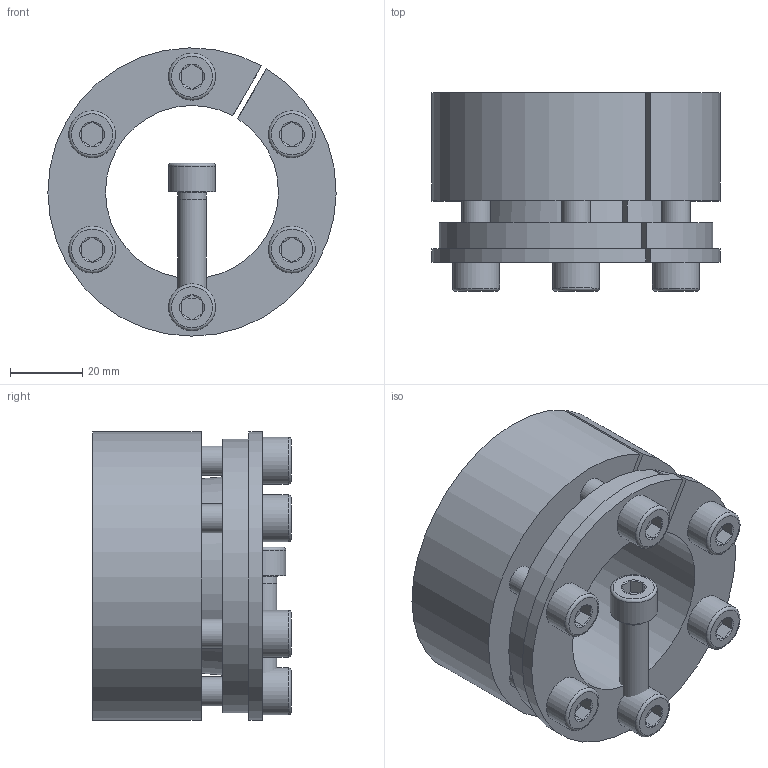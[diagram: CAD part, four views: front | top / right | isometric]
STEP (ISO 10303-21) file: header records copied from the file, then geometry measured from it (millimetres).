
FILE_DESCRIPTION( ( 'Unknown' ), '1' );
FILE_NAME( 'C:/Dokumente und Einstellungen/Sven/Desktop/homepage/cad - homepage/KBS70/KBS 70 - 48 x 80.stp', 'Unknown', ( 'Unknown' ), ( 'Unknown' ), 'XStep 1.0', 'Unknown', ' ' );
FILE_SCHEMA( ( 'automotive_design' ) );
Length unit declared in the file: millimetre
Products named in the file (3): Assem1; KBS 70 - 48 x 80; ISO EN DIN 4762 M8x30
Bounding box: 80 x 55 x 79.99 mm (x, y, z)
Volume: 252557.7 mm3; surface area: 82494.4 mm2
Topology: 9 solids, 9 shells, 227 faces, 467 edges, 286 vertices
Faces by surface type: plane 100, cylinder 60, cone 53, torus 14
Full cylindrical faces by diameter (mm): 7 x7, 8 x38, 13 x7
Entity records: 1694 total; most frequent: CARTESIAN_POINT 283, DIRECTION 256, ORIENTED_EDGE 190, AXIS2_PLACEMENT_3D 112, EDGE_LOOP 98, EDGE_CURVE 95, VERTEX_POINT 71, FACE_OUTER_BOUND 69
